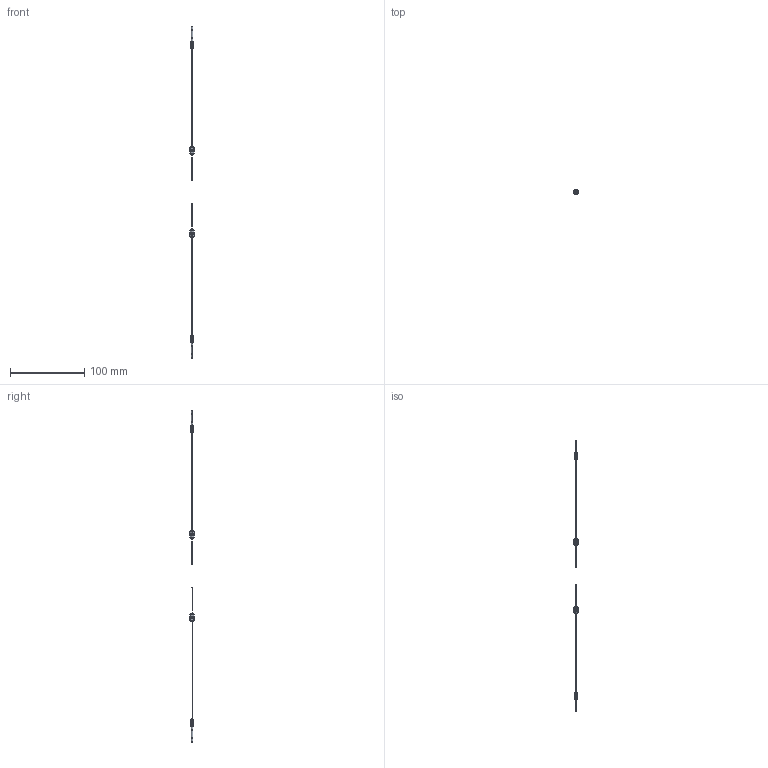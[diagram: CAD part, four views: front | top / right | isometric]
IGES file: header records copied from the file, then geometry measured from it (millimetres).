
Start section: SolidWorks IGES file using analytic representation for surfaces
Bounding box: 6.5 x 6.5 x 448 mm (x, y, z)
Surface area: 3046.4 mm2 (no closed solid volume)
Topology: 0 solids, 0 shells, 572 faces, 7318 edges, 7318 vertices
Faces by surface type: revolution 330, bspline 242
